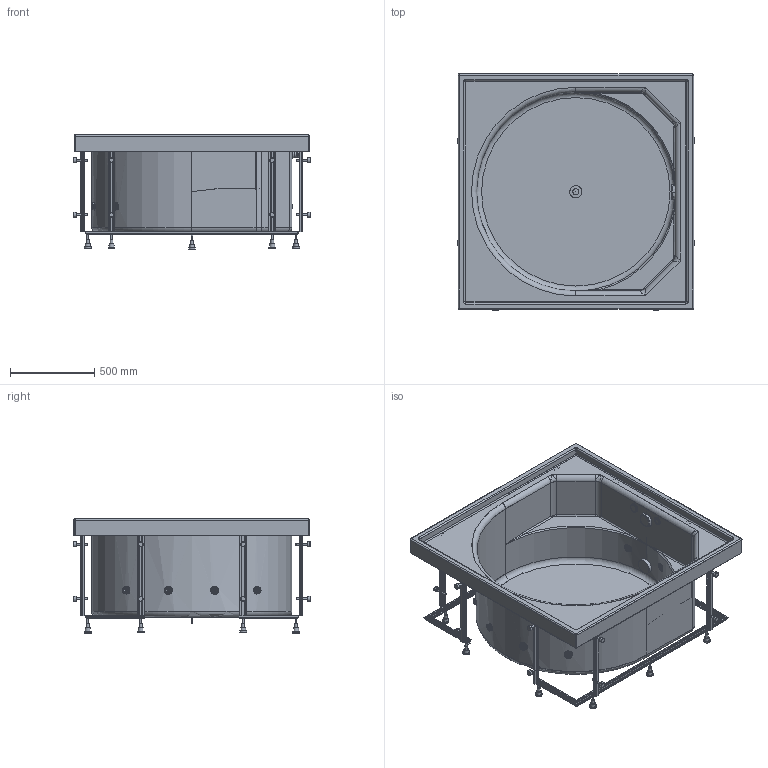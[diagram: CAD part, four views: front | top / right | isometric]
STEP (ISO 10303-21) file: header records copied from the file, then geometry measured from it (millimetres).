
FILE_DESCRIPTION((''),'2;1');
FILE_NAME('C:\Users\Administrator\Desktop\NEWS 2015 Step2 Nachtrag2\BLUE MOON\3d\stp\760402.stp','2015-12-19T22:06:17',('Administrator'),(''),'Autodesk Inventor 2011','Autodesk Inventor 2011','');
FILE_SCHEMA(('CONFIG_CONTROL_DESIGN'));
Length unit declared in the file: millimetre
Products named in the file (18): 760402; Schmiddem Zuber; Ansaugung; Ablaufdeckel ø72; Überlaufdeckel; Düse Bgr; Minijet Verbund-Körper; Kugelgelenk; Ring; Knopf; Taster; Fusgestell; Rahmen1; Rahmen1a; Rahmen3; Schraube; Fuss; Rahmen1b
Assembly tree (56 placements, depth 3):
  760402
    Schmiddem Zuber
    Ansaugung
    Ablaufdeckel ø72
    Überlaufdeckel
    Düse Bgr  x6
      Minijet Verbund-Körper
      Kugelgelenk
      Ring
    Knopf
    Taster
    Fusgestell
      Rahmen1  x2
      Rahmen1a  x2
      Rahmen3  x8
      Schraube  x16
      Fuss  x10
      Rahmen1b  x2
Bounding box: 1409.36 x 1409.45 x 680 mm (x, y, z)
Volume: 54119946.7 mm3; surface area: 10906572.1 mm2
Topology: 66 solids, 68 shells, 1168 faces, 2707 edges, 1751 vertices
Faces by surface type: plane 610, cylinder 286, cone 119, torus 95, bspline 40, sphere 18
Full cylindrical faces by diameter (mm): 2.916 x1, 4 x1, 8.4 x1, 10 x16, 12 x33, 14 x6, 16.8 x6, 17 x1, 17.756 x10, 21 x1, 23 x1, 25.5 x6, 28.8 x6, 30 x17, 30.04 x6, 30.7 x6, 31 x2, 33 x6, 33.2 x6, 33.6 x6, 33.8 x6, 34 x3, 35 x4, 40 x11, 41 x1, 41.2 x6, 44 x7, 45 x1, 47 x1, 48 x1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
Entity records: 18783 total; most frequent: CARTESIAN_POINT 8966, DIRECTION 1931, ORIENTED_EDGE 1656, EDGE_CURVE 828, AXIS2_PLACEMENT_3D 753, EDGE_LOOP 572, VERTEX_POINT 570, VECTOR 425
